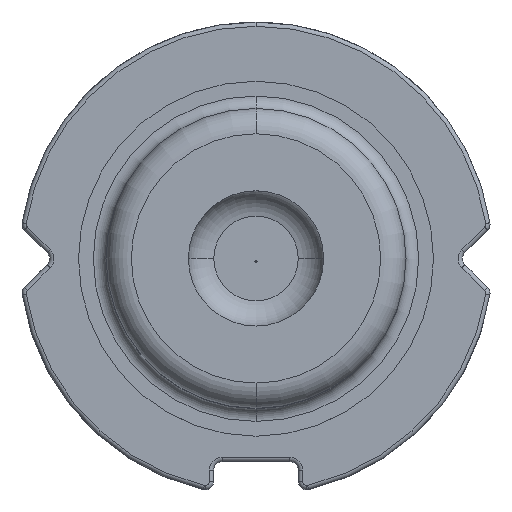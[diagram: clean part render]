
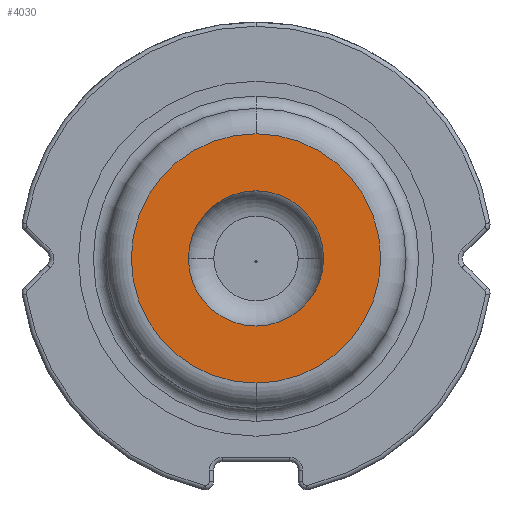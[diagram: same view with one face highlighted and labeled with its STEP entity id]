
A CAD part, top view. The second image highlights one B-rep face of the part: STEP entity #4030.
In plain terms, the highlighted planar face has unit normal (0, 0, 1) as drawn and (0, 1, 0) by its records, which use the part's own axes.
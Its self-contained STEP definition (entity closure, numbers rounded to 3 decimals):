
#33 = CIRCLE ( 'NONE', #5495, 1.475 ) ;
#120 = EDGE_LOOP ( 'NONE', ( #4512, #2977 ) ) ;
#121 = DIRECTION ( 'NONE',  ( 0., -1., 0. ) ) ;
#138 = DIRECTION ( 'NONE',  ( 0., -1., 0. ) ) ;
#363 = EDGE_CURVE ( 'NONE', #3699, #1543, #3772, .T. ) ;
#502 = VERTEX_POINT ( 'NONE', #3633 ) ;
#511 = EDGE_CURVE ( 'NONE', #1543, #3699, #5007, .T. ) ;
#568 = ORIENTED_EDGE ( 'NONE', *, *, #511, .T. ) ;
#596 = DIRECTION ( 'NONE',  ( 0., 0., -1. ) ) ;
#872 = CARTESIAN_POINT ( 'NONE',  ( 1.475, 3.5, 0. ) ) ;
#957 = AXIS2_PLACEMENT_3D ( 'NONE', #5567, #121, #596 ) ;
#1023 = CARTESIAN_POINT ( 'NONE',  ( 0., 3.5, 0. ) ) ;
#1474 = AXIS2_PLACEMENT_3D ( 'NONE', #4918, #138, #2957 ) ;
#1543 = VERTEX_POINT ( 'NONE', #2151 ) ;
#1653 = AXIS2_PLACEMENT_3D ( 'NONE', #5900, #3478, #5415 ) ;
#2018 = CARTESIAN_POINT ( 'NONE',  ( 0., 3.5, -0.8 ) ) ;
#2097 = CARTESIAN_POINT ( 'NONE',  ( 0., 3.5, 1.475 ) ) ;
#2151 = CARTESIAN_POINT ( 'NONE',  ( 0., 3.5, 0.8 ) ) ;
#2177 = VERTEX_POINT ( 'NONE', #2097 ) ;
#2805 = DIRECTION ( 'NONE',  ( 0., 1., 0. ) ) ;
#2957 = DIRECTION ( 'NONE',  ( 0., 0., -1. ) ) ;
#2977 = ORIENTED_EDGE ( 'NONE', *, *, #4619, .F. ) ;
#3091 = CIRCLE ( 'NONE', #1474, 1.475 ) ;
#3174 = AXIS2_PLACEMENT_3D ( 'NONE', #872, #2805, #3194 ) ;
#3194 = DIRECTION ( 'NONE',  ( 0., 0., 1. ) ) ;
#3478 = DIRECTION ( 'NONE',  ( 0., -1., 0. ) ) ;
#3598 = ORIENTED_EDGE ( 'NONE', *, *, #363, .T. ) ;
#3633 = CARTESIAN_POINT ( 'NONE',  ( 0., 3.5, -1.475 ) ) ;
#3699 = VERTEX_POINT ( 'NONE', #2018 ) ;
#3725 = FACE_OUTER_BOUND ( 'NONE', #120, .T. ) ;
#3772 = CIRCLE ( 'NONE', #1653, 0.8 ) ;
#4030 = ADVANCED_FACE ( 'NONE', ( #6178, #3725 ), #6088, .T. ) ;
#4512 = ORIENTED_EDGE ( 'NONE', *, *, #5814, .F. ) ;
#4530 = DIRECTION ( 'NONE',  ( 0., 0., -1. ) ) ;
#4619 = EDGE_CURVE ( 'NONE', #2177, #502, #33, .T. ) ;
#4909 = EDGE_LOOP ( 'NONE', ( #3598, #568 ) ) ;
#4918 = CARTESIAN_POINT ( 'NONE',  ( 0., 3.5, 0. ) ) ;
#4954 = DIRECTION ( 'NONE',  ( 0., -1., 0. ) ) ;
#5007 = CIRCLE ( 'NONE', #957, 0.8 ) ;
#5415 = DIRECTION ( 'NONE',  ( 0., 0., -1. ) ) ;
#5495 = AXIS2_PLACEMENT_3D ( 'NONE', #1023, #4954, #4530 ) ;
#5567 = CARTESIAN_POINT ( 'NONE',  ( 0., 3.5, 0. ) ) ;
#5814 = EDGE_CURVE ( 'NONE', #502, #2177, #3091, .T. ) ;
#5900 = CARTESIAN_POINT ( 'NONE',  ( 0., 3.5, 0. ) ) ;
#6088 = PLANE ( 'NONE',  #3174 ) ;
#6178 = FACE_BOUND ( 'NONE', #4909, .T. ) ;
